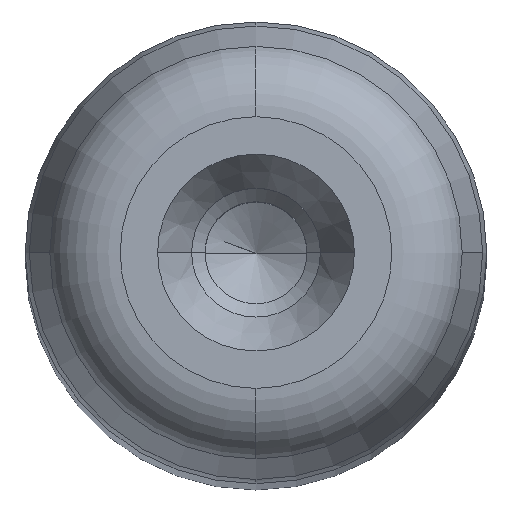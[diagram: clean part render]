
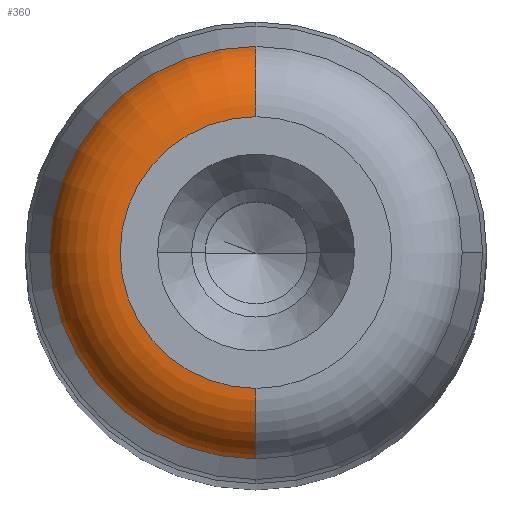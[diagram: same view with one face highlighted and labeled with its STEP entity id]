
A CAD part, top view. The second image highlights one B-rep face of the part: STEP entity #360.
In plain terms, the highlighted toroidal (fillet/blend) face has major radius 5.59 mm and minor radius 3 mm.
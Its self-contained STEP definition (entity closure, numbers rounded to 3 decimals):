
#308=CARTESIAN_POINT('',(0.0,157.0,0.0));
#309=DIRECTION('',(0.0,1.0,0.0));
#310=DIRECTION('',(0.0,0.0,1.0));
#311=AXIS2_PLACEMENT_3D('',#308,#309,#310);
#312=TOROIDAL_SURFACE('',#311,5.59,3.0);
#313=CARTESIAN_POINT('',(0.0,160.0,5.59));
#314=VERTEX_POINT('',#313);
#315=CARTESIAN_POINT('',(0.0,157.776,8.488));
#316=VERTEX_POINT('',#315);
#317=CARTESIAN_POINT('',(0.0,157.0,5.59));
#318=DIRECTION('',(1.0,0.0,0.0));
#319=DIRECTION('',(0.0,0.0,1.0));
#320=AXIS2_PLACEMENT_3D('',#317,#318,#319);
#321=CIRCLE('',#320,3.);
#322=EDGE_CURVE('',#314,#316,#321,.T.);
#323=ORIENTED_EDGE('',*,*,#322,.F.);
#324=CARTESIAN_POINT('',(0.,160.0,-5.59));
#325=VERTEX_POINT('',#324);
#326=CARTESIAN_POINT('',(0.0,160.0,0.0));
#327=DIRECTION('',(0.0,1.0,0.0));
#328=DIRECTION('',(1.0,0.0,0.0));
#329=AXIS2_PLACEMENT_3D('',#326,#327,#328);
#330=CIRCLE('',#329,5.59);
#331=EDGE_CURVE('',#325,#314,#330,.T.);
#332=ORIENTED_EDGE('',*,*,#331,.F.);
#333=CARTESIAN_POINT('',(0.,157.776,-8.488));
#334=VERTEX_POINT('',#333);
#335=CARTESIAN_POINT('',(0.,157.0,-5.59));
#336=DIRECTION('',(-1.0,0.0,0.0));
#337=DIRECTION('',(0.0,0.0,-1.0));
#338=AXIS2_PLACEMENT_3D('',#335,#336,#337);
#339=CIRCLE('',#338,3.);
#340=EDGE_CURVE('',#325,#334,#339,.T.);
#341=ORIENTED_EDGE('',*,*,#340,.T.);
#342=CARTESIAN_POINT('',(-8.488,157.776,0.));
#343=VERTEX_POINT('',#342);
#344=CARTESIAN_POINT('',(0.0,157.776,0.0));
#345=DIRECTION('',(0.0,1.0,0.0));
#346=DIRECTION('',(1.0,0.0,0.0));
#347=AXIS2_PLACEMENT_3D('',#344,#345,#346);
#348=CIRCLE('',#347,8.488);
#349=EDGE_CURVE('',#334,#343,#348,.T.);
#350=ORIENTED_EDGE('',*,*,#349,.T.);
#351=CARTESIAN_POINT('',(0.0,157.776,0.0));
#352=DIRECTION('',(0.0,1.0,0.0));
#353=DIRECTION('',(1.0,0.0,0.0));
#354=AXIS2_PLACEMENT_3D('',#351,#352,#353);
#355=CIRCLE('',#354,8.488);
#356=EDGE_CURVE('',#343,#316,#355,.T.);
#357=ORIENTED_EDGE('',*,*,#356,.T.);
#358=EDGE_LOOP('',(#323,#332,#341,#350,#357));
#359=FACE_OUTER_BOUND('',#358,.T.);
#360=ADVANCED_FACE('',(#359),#312,.T.);
